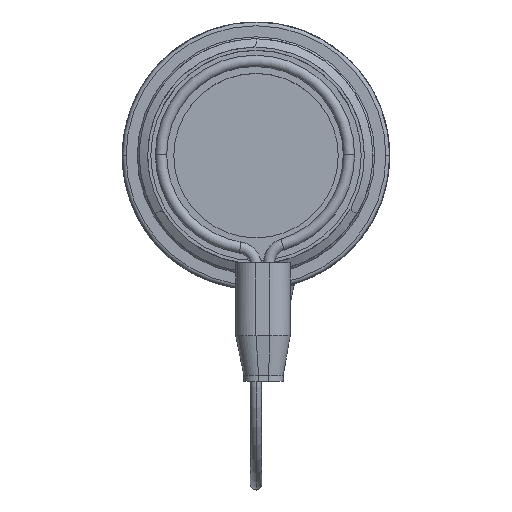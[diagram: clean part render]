
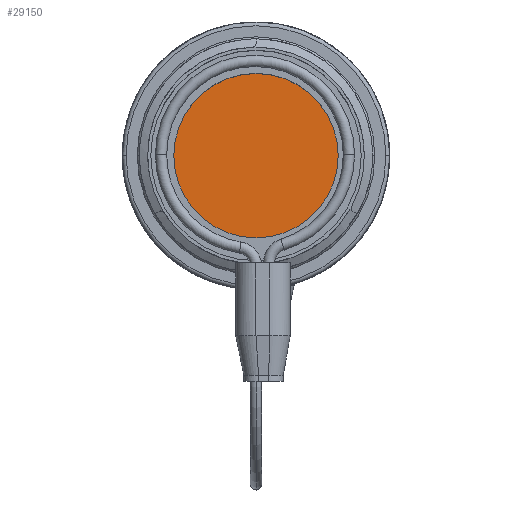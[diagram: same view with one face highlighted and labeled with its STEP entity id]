
A CAD part, top view. The second image highlights one B-rep face of the part: STEP entity #29150.
In plain terms, the highlighted planar face has unit normal (0, 0, 1) as drawn and (0, 0, -1) by its records, which use the part's own axes.
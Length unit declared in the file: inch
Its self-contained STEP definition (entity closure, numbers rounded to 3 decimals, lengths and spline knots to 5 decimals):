
#1797 = CARTESIAN_POINT ( 'NONE',  ( -0.4375, 0., -0.38 ) ) ;
#2539 = DIRECTION ( 'NONE',  ( -1., 0., 0. ) ) ;
#2816 = FACE_OUTER_BOUND ( 'NONE', #45528, .T. ) ;
#2838 = CIRCLE ( 'NONE', #9141, 0.4375 ) ;
#3639 = CARTESIAN_POINT ( 'NONE',  ( 0., 0., -0.38 ) ) ;
#6105 = VERTEX_POINT ( 'NONE', #11225 ) ;
#8699 = DIRECTION ( 'NONE',  ( 0., 0., -1. ) ) ;
#9141 = AXIS2_PLACEMENT_3D ( 'NONE', #38428, #55592, #34188 ) ;
#11225 = CARTESIAN_POINT ( 'NONE',  ( 0.4375, 0., -0.38 ) ) ;
#13299 = AXIS2_PLACEMENT_3D ( 'NONE', #3639, #8699, #47008 ) ;
#16014 = CIRCLE ( 'NONE', #13299, 0.4375 ) ;
#19347 = EDGE_CURVE ( 'NONE', #25577, #6105, #16014, .T. ) ;
#20026 = CARTESIAN_POINT ( 'NONE',  ( 0., 0.4375, -0.38 ) ) ;
#20988 = ORIENTED_EDGE ( 'NONE', *, *, #19347, .T. ) ;
#23681 = AXIS2_PLACEMENT_3D ( 'NONE', #20026, #32975, #2539 ) ;
#25577 = VERTEX_POINT ( 'NONE', #1797 ) ;
#25599 = ORIENTED_EDGE ( 'NONE', *, *, #43661, .T. ) ;
#29150 = ADVANCED_FACE ( 'NONE', ( #2816 ), #37204, .T. ) ;
#32975 = DIRECTION ( 'NONE',  ( 0., 0., -1. ) ) ;
#34188 = DIRECTION ( 'NONE',  ( -1., 0., 0. ) ) ;
#37204 = PLANE ( 'NONE',  #23681 ) ;
#38428 = CARTESIAN_POINT ( 'NONE',  ( 0., 0., -0.38 ) ) ;
#43661 = EDGE_CURVE ( 'NONE', #6105, #25577, #2838, .T. ) ;
#45528 = EDGE_LOOP ( 'NONE', ( #20988, #25599 ) ) ;
#47008 = DIRECTION ( 'NONE',  ( -1., 0., 0. ) ) ;
#55592 = DIRECTION ( 'NONE',  ( 0., 0., -1. ) ) ;
